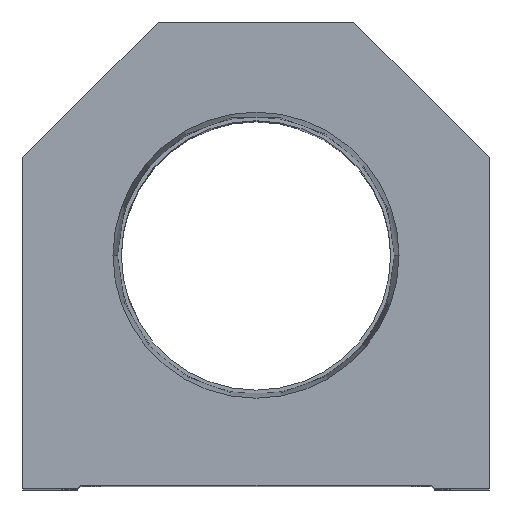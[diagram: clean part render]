
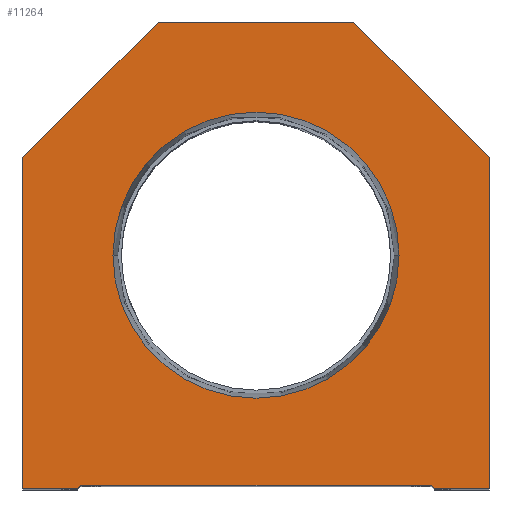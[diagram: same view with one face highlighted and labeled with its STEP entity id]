
A CAD part, top view. The second image highlights one B-rep face of the part: STEP entity #11264.
In plain terms, the highlighted planar face has unit normal (0, 0, 1).
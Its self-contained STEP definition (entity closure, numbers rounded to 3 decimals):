
#250 = DIRECTION ( 'NONE',  ( 1., 0., 0. ) ) ;
#559 = VERTEX_POINT ( 'NONE', #742 ) ;
#742 = CARTESIAN_POINT ( 'NONE',  ( 28.6, 0.5, 0. ) ) ;
#756 = ORIENTED_EDGE ( 'NONE', *, *, #12251, .F. ) ;
#1077 = VECTOR ( 'NONE', #15005, 1000. ) ;
#1114 = LINE ( 'NONE', #10455, #4479 ) ;
#1156 = EDGE_CURVE ( 'NONE', #6841, #15857, #12273, .T. ) ;
#1503 = CARTESIAN_POINT ( 'NONE',  ( 0., 38.1, 0. ) ) ;
#1530 = EDGE_LOOP ( 'NONE', ( #7944, #7663, #13906, #3282, #14592, #13445, #11850, #3002, #14660, #1832 ) ) ;
#1603 = PLANE ( 'NONE',  #9066 ) ;
#1645 = AXIS2_PLACEMENT_3D ( 'NONE', #5168, #12913, #8970 ) ;
#1832 = ORIENTED_EDGE ( 'NONE', *, *, #3429, .T. ) ;
#1982 = EDGE_CURVE ( 'NONE', #15045, #3817, #11888, .T. ) ;
#2061 = EDGE_CURVE ( 'NONE', #14675, #559, #7331, .T. ) ;
#2251 = EDGE_CURVE ( 'NONE', #6701, #15368, #16687, .T. ) ;
#2312 = VERTEX_POINT ( 'NONE', #7571 ) ;
#2921 = CARTESIAN_POINT ( 'NONE',  ( -28.6, 0.5, 0. ) ) ;
#3002 = ORIENTED_EDGE ( 'NONE', *, *, #1156, .T. ) ;
#3131 = DIRECTION ( 'NONE',  ( 0., 0., 1. ) ) ;
#3282 = ORIENTED_EDGE ( 'NONE', *, *, #8720, .T. ) ;
#3409 = CARTESIAN_POINT ( 'NONE',  ( -14.55, 14.55, 0. ) ) ;
#3429 = EDGE_CURVE ( 'NONE', #2312, #5571, #16740, .T. ) ;
#3706 = VERTEX_POINT ( 'NONE', #12023 ) ;
#3817 = VERTEX_POINT ( 'NONE', #15409 ) ;
#3885 = DIRECTION ( 'NONE',  ( -0.707, 0.707, 0. ) ) ;
#3917 = DIRECTION ( 'NONE',  ( -1., 0., 0. ) ) ;
#4479 = VECTOR ( 'NONE', #9207, 1000. ) ;
#4638 = DIRECTION ( 'NONE',  ( 0.707, 0.707, 0. ) ) ;
#4726 = DIRECTION ( 'NONE',  ( 0., -1., 0. ) ) ;
#5074 = VECTOR ( 'NONE', #4638, 1000. ) ;
#5168 = CARTESIAN_POINT ( 'NONE',  ( 0., 38.1, 0. ) ) ;
#5220 = LINE ( 'NONE', #11782, #14487 ) ;
#5472 = CARTESIAN_POINT ( 'NONE',  ( 16., 76.2, 0. ) ) ;
#5571 = VERTEX_POINT ( 'NONE', #10966 ) ;
#5605 = DIRECTION ( 'NONE',  ( 1., 0., 0. ) ) ;
#5880 = EDGE_CURVE ( 'NONE', #15857, #2312, #12231, .T. ) ;
#6514 = ORIENTED_EDGE ( 'NONE', *, *, #1982, .F. ) ;
#6701 = VERTEX_POINT ( 'NONE', #15452 ) ;
#6841 = VERTEX_POINT ( 'NONE', #5472 ) ;
#7079 = FACE_BOUND ( 'NONE', #12161, .T. ) ;
#7133 = CARTESIAN_POINT ( 'NONE',  ( 28.6, 0., 0. ) ) ;
#7331 = LINE ( 'NONE', #15645, #15324 ) ;
#7571 = CARTESIAN_POINT ( 'NONE',  ( -38.1, 54.1, 0. ) ) ;
#7663 = ORIENTED_EDGE ( 'NONE', *, *, #13643, .T. ) ;
#7838 = CARTESIAN_POINT ( 'NONE',  ( -16., 76.2, 0. ) ) ;
#7944 = ORIENTED_EDGE ( 'NONE', *, *, #14944, .T. ) ;
#8720 = EDGE_CURVE ( 'NONE', #559, #6701, #11751, .T. ) ;
#8970 = DIRECTION ( 'NONE',  ( 1., 0., 0. ) ) ;
#9066 = AXIS2_PLACEMENT_3D ( 'NONE', #12562, #3131, #250 ) ;
#9207 = DIRECTION ( 'NONE',  ( 0., 1., 0. ) ) ;
#9292 = VECTOR ( 'NONE', #3917, 1000. ) ;
#9604 = AXIS2_PLACEMENT_3D ( 'NONE', #1503, #13964, #15224 ) ;
#9865 = VECTOR ( 'NONE', #15843, 1000. ) ;
#9945 = FACE_OUTER_BOUND ( 'NONE', #1530, .T. ) ;
#10051 = CARTESIAN_POINT ( 'NONE',  ( -38.1, 0., 0. ) ) ;
#10164 = VECTOR ( 'NONE', #5605, 1000. ) ;
#10455 = CARTESIAN_POINT ( 'NONE',  ( 38.1, 0., 0. ) ) ;
#10966 = CARTESIAN_POINT ( 'NONE',  ( -38.1, 0., 0. ) ) ;
#11007 = DIRECTION ( 'NONE',  ( -0.707, -0.707, 0. ) ) ;
#11264 = ADVANCED_FACE ( 'NONE', ( #7079, #9945 ), #1603, .T. ) ;
#11465 = CARTESIAN_POINT ( 'NONE',  ( 38.1, 0., 0. ) ) ;
#11751 = LINE ( 'NONE', #17167, #9865 ) ;
#11776 = EDGE_CURVE ( 'NONE', #3706, #6841, #5220, .T. ) ;
#11782 = CARTESIAN_POINT ( 'NONE',  ( 38.1, 54.1, 0. ) ) ;
#11850 = ORIENTED_EDGE ( 'NONE', *, *, #11776, .T. ) ;
#11888 = CIRCLE ( 'NONE', #9604, 23.374 ) ;
#12023 = CARTESIAN_POINT ( 'NONE',  ( 38.1, 54.1, 0. ) ) ;
#12161 = EDGE_LOOP ( 'NONE', ( #6514, #756 ) ) ;
#12231 = LINE ( 'NONE', #12405, #17159 ) ;
#12251 = EDGE_CURVE ( 'NONE', #3817, #15045, #12260, .T. ) ;
#12260 = CIRCLE ( 'NONE', #1645, 23.374 ) ;
#12273 = LINE ( 'NONE', #14931, #9292 ) ;
#12405 = CARTESIAN_POINT ( 'NONE',  ( -38.1, 54.1, 0. ) ) ;
#12562 = CARTESIAN_POINT ( 'NONE',  ( 0., 0., 0. ) ) ;
#12678 = CARTESIAN_POINT ( 'NONE',  ( 23.374, 38.1, 0. ) ) ;
#12888 = DIRECTION ( 'NONE',  ( 1., 0., 0. ) ) ;
#12913 = DIRECTION ( 'NONE',  ( 0., 0., 1. ) ) ;
#13445 = ORIENTED_EDGE ( 'NONE', *, *, #15614, .T. ) ;
#13549 = CARTESIAN_POINT ( 'NONE',  ( -29.1, 0., 0. ) ) ;
#13643 = EDGE_CURVE ( 'NONE', #14149, #14675, #15675, .T. ) ;
#13756 = CARTESIAN_POINT ( 'NONE',  ( -28.6, 0., 0. ) ) ;
#13906 = ORIENTED_EDGE ( 'NONE', *, *, #2061, .T. ) ;
#13964 = DIRECTION ( 'NONE',  ( 0., 0., 1. ) ) ;
#14149 = VERTEX_POINT ( 'NONE', #13549 ) ;
#14487 = VECTOR ( 'NONE', #3885, 1000. ) ;
#14592 = ORIENTED_EDGE ( 'NONE', *, *, #2251, .T. ) ;
#14660 = ORIENTED_EDGE ( 'NONE', *, *, #5880, .T. ) ;
#14675 = VERTEX_POINT ( 'NONE', #2921 ) ;
#14931 = CARTESIAN_POINT ( 'NONE',  ( 16., 76.2, 0. ) ) ;
#14944 = EDGE_CURVE ( 'NONE', #5571, #14149, #17673, .T. ) ;
#15005 = DIRECTION ( 'NONE',  ( 1., 0., 0. ) ) ;
#15045 = VERTEX_POINT ( 'NONE', #12678 ) ;
#15224 = DIRECTION ( 'NONE',  ( 1., 0., 0. ) ) ;
#15324 = VECTOR ( 'NONE', #12888, 1000. ) ;
#15368 = VERTEX_POINT ( 'NONE', #11465 ) ;
#15409 = CARTESIAN_POINT ( 'NONE',  ( -23.374, 38.1, 0. ) ) ;
#15452 = CARTESIAN_POINT ( 'NONE',  ( 29.1, 0., 0. ) ) ;
#15614 = EDGE_CURVE ( 'NONE', #15368, #3706, #1114, .T. ) ;
#15645 = CARTESIAN_POINT ( 'NONE',  ( -28.6, 0.5, 0. ) ) ;
#15675 = LINE ( 'NONE', #3409, #5074 ) ;
#15843 = DIRECTION ( 'NONE',  ( 0.707, -0.707, 0. ) ) ;
#15857 = VERTEX_POINT ( 'NONE', #7838 ) ;
#16687 = LINE ( 'NONE', #7133, #10164 ) ;
#16740 = LINE ( 'NONE', #10051, #17573 ) ;
#17159 = VECTOR ( 'NONE', #11007, 1000. ) ;
#17167 = CARTESIAN_POINT ( 'NONE',  ( 14.55, 14.55, 0. ) ) ;
#17573 = VECTOR ( 'NONE', #4726, 1000. ) ;
#17673 = LINE ( 'NONE', #13756, #1077 ) ;
